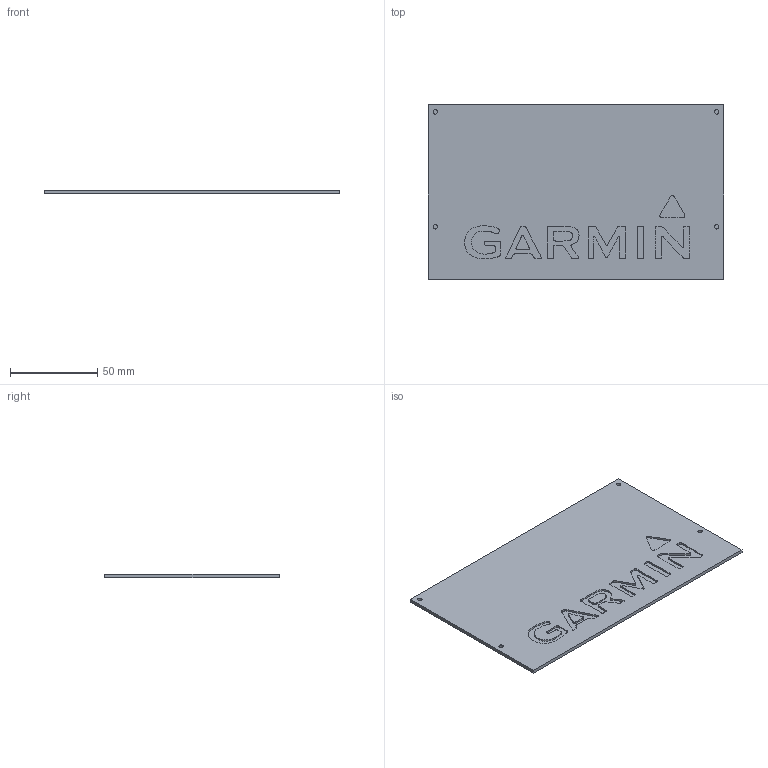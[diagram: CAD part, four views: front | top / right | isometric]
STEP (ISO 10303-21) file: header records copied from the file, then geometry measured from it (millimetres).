
FILE_DESCRIPTION(('FreeCAD Model'),'2;1');
FILE_NAME('E:/CAD Designs/Garmin/Final/CAD files/STEP/box_cover.step', '2021-02-27T12:56:02',('Author'),(''), 'Open CASCADE STEP processor 7.3','FreeCAD','Unknown');
FILE_SCHEMA(('AUTOMOTIVE_DESIGN { 1 0 10303 214 1 1 1 1 }'));
Length unit declared in the file: millimetre
Products named in the file (1): Body
Bounding box: 169.5 x 100 x 2 mm (x, y, z)
Volume: 32747.2 mm3; surface area: 35685.1 mm2
Topology: 1 solids, 1 shells, 278 faces, 789 edges, 526 vertices
Faces by surface type: extrusion 255, plane 19, cylinder 4
Full cylindrical faces by diameter (mm): 2.5 x4
Entity records: 20904 total; most frequent: CARTESIAN_POINT 6997, DIRECTION 1658, VECTOR 1586, ORIENTED_EDGE 1578, PCURVE 1578, DEFINITIONAL_REPRESENTATION 1578, LINE 1331, B_SPLINE_CURVE_WITH_KNOTS 1275
